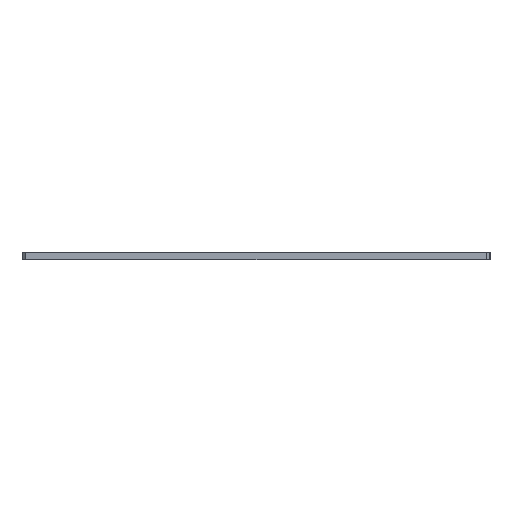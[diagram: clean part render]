
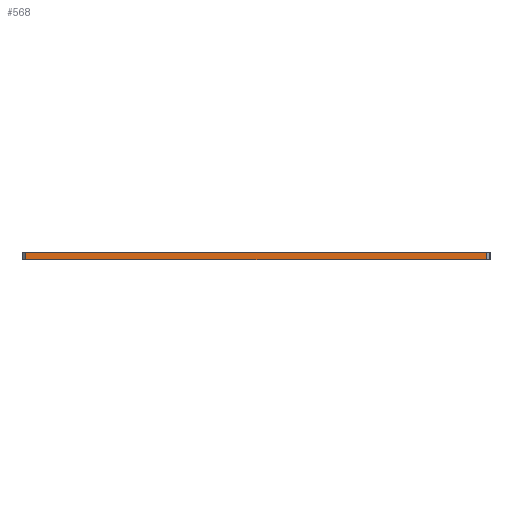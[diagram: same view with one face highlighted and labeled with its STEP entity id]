
A CAD part, left-side view. The second image highlights one B-rep face of the part: STEP entity #568.
In plain terms, the highlighted planar face has unit normal (-1, 0, 0).
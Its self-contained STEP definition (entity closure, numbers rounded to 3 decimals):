
#541=AXIS2_PLACEMENT_3D('Plane Axis2P3D',#538,#539,#540) ;
#107=CARTESIAN_POINT('Vertex',(0.,-5.,10.)) ;
#110=CARTESIAN_POINT('Line Origine',(0.,-325.,10.)) ;
#114=CARTESIAN_POINT('Vertex',(0.,-645.,10.)) ;
#538=CARTESIAN_POINT('Axis2P3D Location',(0.,0.,0.)) ;
#543=CARTESIAN_POINT('Line Origine',(0.,-5.,5.)) ;
#547=CARTESIAN_POINT('Vertex',(0.,-5.,0.)) ;
#550=CARTESIAN_POINT('Line Origine',(0.,-325.,0.)) ;
#554=CARTESIAN_POINT('Vertex',(0.,-645.,0.)) ;
#557=CARTESIAN_POINT('Line Origine',(0.,-645.,5.)) ;
#111=DIRECTION('Vector Direction',(0.,-1.,0.)) ;
#539=DIRECTION('Axis2P3D Direction',(-1.,0.,0.)) ;
#540=DIRECTION('Axis2P3D XDirection',(0.,-1.,0.)) ;
#544=DIRECTION('Vector Direction',(0.,0.,1.)) ;
#551=DIRECTION('Vector Direction',(0.,-1.,0.)) ;
#558=DIRECTION('Vector Direction',(0.,0.,1.)) ;
#112=VECTOR('Line Direction',#111,1.) ;
#545=VECTOR('Line Direction',#544,1.) ;
#552=VECTOR('Line Direction',#551,1.) ;
#559=VECTOR('Line Direction',#558,1.) ;
#563=ORIENTED_EDGE('',*,*,#116,.F.) ;
#564=ORIENTED_EDGE('',*,*,#549,.F.) ;
#565=ORIENTED_EDGE('',*,*,#556,.T.) ;
#566=ORIENTED_EDGE('',*,*,#561,.T.) ;
#568=ADVANCED_FACE('\X2\96F64EF651E04F554F53\X0\',(#567),#542,.T.) ;
#116=EDGE_CURVE('',#108,#115,#113,.T.) ;
#549=EDGE_CURVE('',#548,#108,#546,.T.) ;
#556=EDGE_CURVE('',#548,#555,#553,.T.) ;
#561=EDGE_CURVE('',#555,#115,#560,.T.) ;
#562=EDGE_LOOP('',(#563,#564,#565,#566)) ;
#567=FACE_OUTER_BOUND('',#562,.T.) ;
#113=LINE('Line',#110,#112) ;
#546=LINE('Line',#543,#545) ;
#553=LINE('Line',#550,#552) ;
#560=LINE('Line',#557,#559) ;
#542=PLANE('',#541) ;
#108=VERTEX_POINT('',#107) ;
#115=VERTEX_POINT('',#114) ;
#548=VERTEX_POINT('',#547) ;
#555=VERTEX_POINT('',#554) ;
